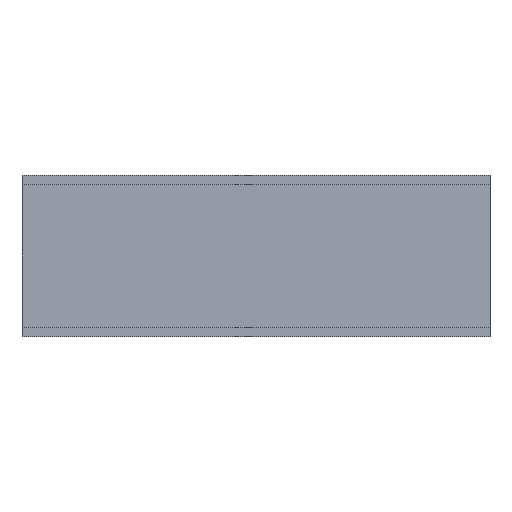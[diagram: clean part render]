
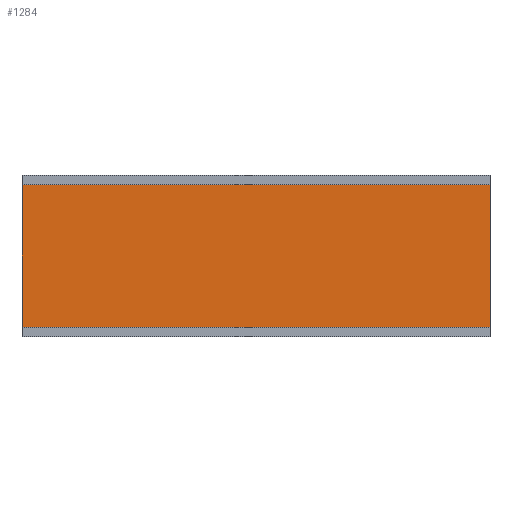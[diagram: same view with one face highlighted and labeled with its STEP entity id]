
A CAD part, front view. The second image highlights one B-rep face of the part: STEP entity #1284.
In plain terms, the highlighted planar face has unit normal (0, -1, 0).
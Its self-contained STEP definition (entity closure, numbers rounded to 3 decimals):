
#68 = CARTESIAN_POINT ( 'NONE',  ( 1000., -68., 152.4 ) ) ;
#109 = CARTESIAN_POINT ( 'NONE',  ( 0., -68., -152.4 ) ) ;
#203 = AXIS2_PLACEMENT_3D ( 'NONE', #1360, #230, #1122 ) ;
#222 = VECTOR ( 'NONE', #826, 1000. ) ;
#230 = DIRECTION ( 'NONE',  ( 0., 1., 0. ) ) ;
#265 = VECTOR ( 'NONE', #1218, 1000. ) ;
#300 = ORIENTED_EDGE ( 'NONE', *, *, #1157, .F. ) ;
#346 = PLANE ( 'NONE',  #203 ) ;
#349 = LINE ( 'NONE', #1599, #222 ) ;
#376 = VERTEX_POINT ( 'NONE', #389 ) ;
#389 = CARTESIAN_POINT ( 'NONE',  ( 1000., -68., 152.4 ) ) ;
#395 = VERTEX_POINT ( 'NONE', #1022 ) ;
#405 = VECTOR ( 'NONE', #496, 1000. ) ;
#496 = DIRECTION ( 'NONE',  ( 0., 0., -1. ) ) ;
#594 = LINE ( 'NONE', #109, #405 ) ;
#629 = CARTESIAN_POINT ( 'NONE',  ( 1000., -68., -152.4 ) ) ;
#756 = ORIENTED_EDGE ( 'NONE', *, *, #1177, .F. ) ;
#757 = CARTESIAN_POINT ( 'NONE',  ( 0., -68., -152.4 ) ) ;
#768 = EDGE_CURVE ( 'NONE', #395, #1306, #594, .T. ) ;
#826 = DIRECTION ( 'NONE',  ( -1., 0., 0. ) ) ;
#908 = EDGE_LOOP ( 'NONE', ( #1594, #300, #756, #1448 ) ) ;
#982 = LINE ( 'NONE', #68, #265 ) ;
#1022 = CARTESIAN_POINT ( 'NONE',  ( 0., -68., 152.4 ) ) ;
#1103 = FACE_OUTER_BOUND ( 'NONE', #908, .T. ) ;
#1122 = DIRECTION ( 'NONE',  ( 0., 0., 1. ) ) ;
#1157 = EDGE_CURVE ( 'NONE', #1311, #1306, #349, .T. ) ;
#1158 = EDGE_CURVE ( 'NONE', #376, #395, #982, .T. ) ;
#1177 = EDGE_CURVE ( 'NONE', #376, #1311, #1565, .T. ) ;
#1217 = VECTOR ( 'NONE', #1516, 1000. ) ;
#1218 = DIRECTION ( 'NONE',  ( -1., 0., 0. ) ) ;
#1284 = ADVANCED_FACE ( 'NONE', ( #1103 ), #346, .F. ) ;
#1306 = VERTEX_POINT ( 'NONE', #757 ) ;
#1311 = VERTEX_POINT ( 'NONE', #629 ) ;
#1357 = CARTESIAN_POINT ( 'NONE',  ( 1000., -68., -152.4 ) ) ;
#1360 = CARTESIAN_POINT ( 'NONE',  ( 1000., -68., -152.4 ) ) ;
#1448 = ORIENTED_EDGE ( 'NONE', *, *, #1158, .T. ) ;
#1516 = DIRECTION ( 'NONE',  ( 0., 0., -1. ) ) ;
#1565 = LINE ( 'NONE', #1357, #1217 ) ;
#1594 = ORIENTED_EDGE ( 'NONE', *, *, #768, .T. ) ;
#1599 = CARTESIAN_POINT ( 'NONE',  ( 1000., -68., -152.4 ) ) ;
